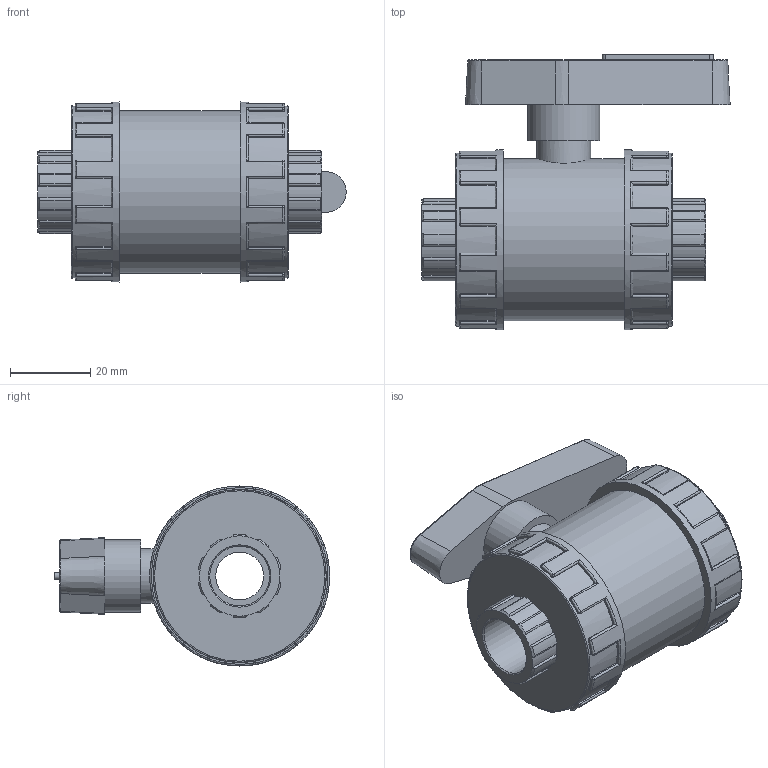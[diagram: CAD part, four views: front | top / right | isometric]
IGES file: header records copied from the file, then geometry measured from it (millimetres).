
Global section: file name: 11241003.ipt; native system: Autodesk Inventor 2015; preprocessor: unknown; author: KIM; date: 20171207.170302; units: millimetre
Bounding box: 77.07 x 68.85 x 45 mm (x, y, z)
Volume: 84373.8 mm3; surface area: 18848.5 mm2
Topology: 1 solids, 1 shells, 434 faces, 1085 edges, 662 vertices
Faces by surface type: cylinder 189, plane 114, revolution 59, sphere 48, cone 24
Full cylindrical faces by diameter (mm): 13.5 x1, 18 x1, 40.5 x1, 43.2 x2, 45 x2
